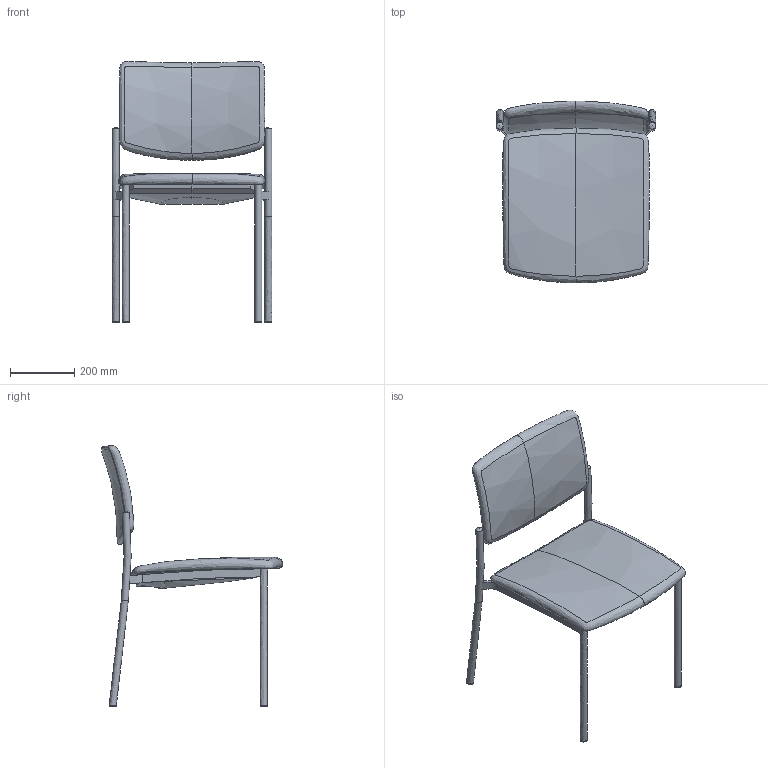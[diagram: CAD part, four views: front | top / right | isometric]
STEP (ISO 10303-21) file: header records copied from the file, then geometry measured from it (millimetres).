
FILE_DESCRIPTION(/* description */ (''),/* implementation_level */ '2;1');
FILE_NAME(/* name */ 'Seance 090',/* time_stamp */ '2020-03-26T11:02:43+01:00',/* author */ (''),/* organization */ (''),/* preprocessor_version */ 'ST-DEVELOPER v16.5',/* originating_system */ '',/* authorisation */ '');
FILE_SCHEMA (('AUTOMOTIVE_DESIGN'));
Length unit declared in the file: millimetre
Products named in the file (1): Document
Bounding box: 496 x 564.48 x 811.07 mm (x, y, z)
Volume: 12094618.6 mm3; surface area: 1163588 mm2
Topology: 6 solids, 15 shells, 74 faces, 157 edges, 103 vertices
Faces by surface type: bspline 42, plane 32
Entity records: 4437 total; most frequent: CARTESIAN_POINT 3322, ORIENTED_EDGE 286, EDGE_CURVE 152, B_SPLINE_CURVE_WITH_KNOTS 112, VERTEX_POINT 97, ADVANCED_FACE 74, FACE_OUTER_BOUND 74, EDGE_LOOP 74
